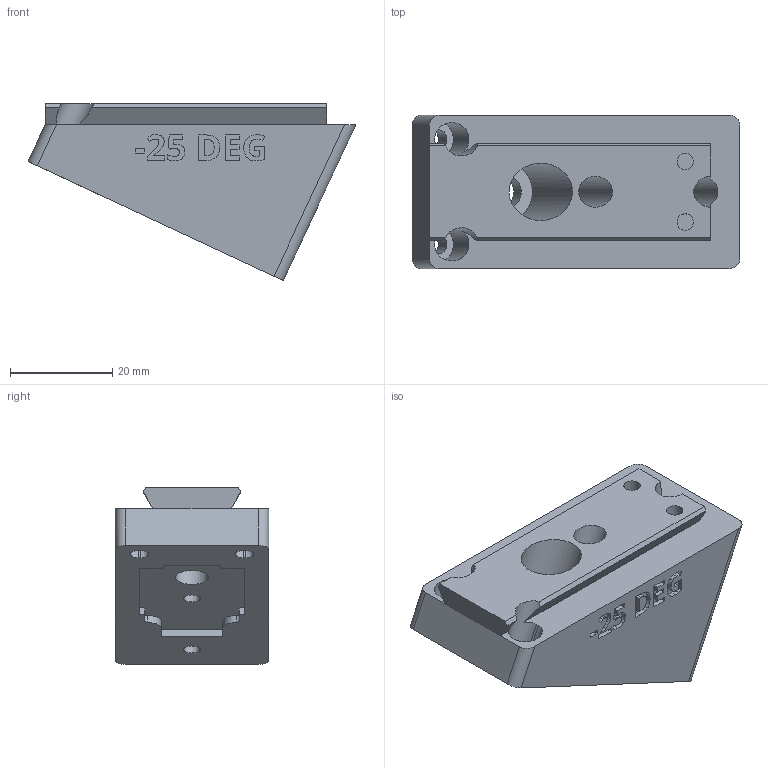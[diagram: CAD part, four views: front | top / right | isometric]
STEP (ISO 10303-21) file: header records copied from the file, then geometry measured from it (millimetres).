
FILE_DESCRIPTION(/* description */ ('STEP AP242 Edition 2','CAx-IF Rec.Pracs.---Representation and Presentation of Product Manufacturing Information (PMI)---4.0---2014-10-13','CAx-IF Rec.Pracs.---3D Tessellated Geometry---0.4---2014-09-14','2;1','CAx-IF Rec.Pracs.---User Defined Attributes---1.5---2016-08-15'),/* implementation_level */ '2;1');
FILE_NAME(/* name */ 'Camera Wedges - CAMERA MOUNTING WEDGE, NEG, -25 DEG',/* time_stamp */ '2026-08-11T00:07:20Z',/* author */ (''),/* organization */ (''),/* preprocessor_version */ 'ST-DEVELOPER v20',/* originating_system */ 'ONSHAPE BY PTC INC, 1.219',/* authorisation */ ' ');
FILE_SCHEMA (('AP242_MANAGED_MODEL_BASED_3D_ENGINEERING_MIM_LF { 1 0 10303 442 3 1 4 }'));
Length unit declared in the file: metre
Products named in the file (1): CAMERA MOUNTING WEDGE, NEG, -25 DEG
Bounding box: 64.05 x 30 x 34.55 mm (x, y, z)
Volume: 33392.4 mm3; surface area: 10002.7 mm2
Topology: 1 solids, 1 shells, 274 faces, 757 edges, 504 vertices
Faces by surface type: plane 154, cylinder 62, bspline 58
Full cylindrical faces by diameter (mm): 3.2 x4, 6 x2, 6.4 x1, 11.2 x1
Entity records: 8909 total; most frequent: CARTESIAN_POINT 2164, ORIENTED_EDGE 1496, DIRECTION 1205, EDGE_CURVE 748, VERTEX_POINT 503, LINE 493, VECTOR 493, AXIS2_PLACEMENT_3D 356
